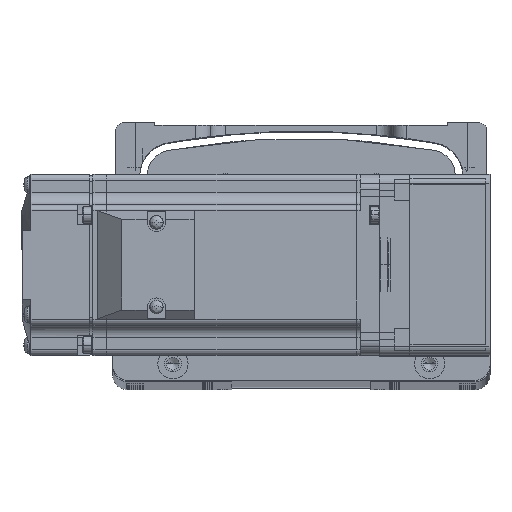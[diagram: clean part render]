
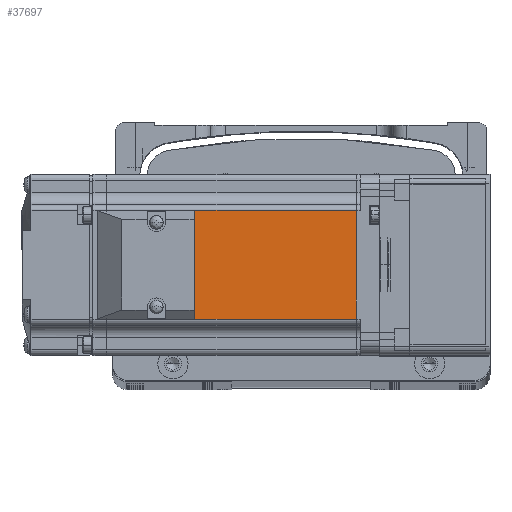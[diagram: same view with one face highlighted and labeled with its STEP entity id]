
A CAD part, top view. The second image highlights one B-rep face of the part: STEP entity #37697.
In plain terms, the highlighted planar face has unit normal (0, 0, 1) as drawn and (0, 1, 0) by its records, which use the part's own axes.
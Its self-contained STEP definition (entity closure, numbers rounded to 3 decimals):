
#317 = CARTESIAN_POINT ( 'NONE',  ( -7.75, 30., -18. ) ) ;
#8624 = EDGE_CURVE ( 'NONE', #54219, #43780, #24937, .T. ) ;
#13593 = FACE_OUTER_BOUND ( 'NONE', #30517, .T. ) ;
#14307 = VECTOR ( 'NONE', #76660, 1000. ) ;
#17532 = AXIS2_PLACEMENT_3D ( 'NONE', #60956, #20686, #67766 ) ;
#17570 = DIRECTION ( 'NONE',  ( 0., 0., 1. ) ) ;
#18228 = DIRECTION ( 'NONE',  ( 0., 0., 1. ) ) ;
#20686 = DIRECTION ( 'NONE',  ( 0., 1., 0. ) ) ;
#22795 = ORIENTED_EDGE ( 'NONE', *, *, #8624, .T. ) ;
#23257 = VECTOR ( 'NONE', #17570, 1000. ) ;
#23316 = VECTOR ( 'NONE', #18228, 1000. ) ;
#24937 = LINE ( 'NONE', #86755, #38640 ) ;
#29615 = CARTESIAN_POINT ( 'NONE',  ( -6.5, 30., 18. ) ) ;
#30517 = EDGE_LOOP ( 'NONE', ( #37884, #22795, #35372, #59157 ) ) ;
#32954 = DIRECTION ( 'NONE',  ( -1., 0., 0. ) ) ;
#35372 = ORIENTED_EDGE ( 'NONE', *, *, #77306, .T. ) ;
#36883 = EDGE_CURVE ( 'NONE', #54219, #65345, #59009, .T. ) ;
#37051 = CARTESIAN_POINT ( 'NONE',  ( -7.75, 30., 0. ) ) ;
#37697 = ADVANCED_FACE ( 'NONE', ( #13593 ), #73977, .T. ) ;
#37884 = ORIENTED_EDGE ( 'NONE', *, *, #36883, .F. ) ;
#38640 = VECTOR ( 'NONE', #32954, 1000. ) ;
#41245 = LINE ( 'NONE', #71828, #23316 ) ;
#43722 = CARTESIAN_POINT ( 'NONE',  ( -7.75, 30., 18. ) ) ;
#43780 = VERTEX_POINT ( 'NONE', #63424 ) ;
#47278 = CARTESIAN_POINT ( 'NONE',  ( -90.45, 30., 18. ) ) ;
#53179 = VERTEX_POINT ( 'NONE', #47278 ) ;
#54219 = VERTEX_POINT ( 'NONE', #317 ) ;
#59009 = LINE ( 'NONE', #37051, #23257 ) ;
#59157 = ORIENTED_EDGE ( 'NONE', *, *, #82947, .T. ) ;
#60956 = CARTESIAN_POINT ( 'NONE',  ( -6.5, 30., 25. ) ) ;
#63424 = CARTESIAN_POINT ( 'NONE',  ( -90.45, 30., -18. ) ) ;
#65345 = VERTEX_POINT ( 'NONE', #43722 ) ;
#67766 = DIRECTION ( 'NONE',  ( 0., 0., 1. ) ) ;
#71828 = CARTESIAN_POINT ( 'NONE',  ( -90.45, 30., 0. ) ) ;
#73977 = PLANE ( 'NONE',  #17532 ) ;
#76660 = DIRECTION ( 'NONE',  ( 1., 0., 0. ) ) ;
#77306 = EDGE_CURVE ( 'NONE', #43780, #53179, #41245, .T. ) ;
#82947 = EDGE_CURVE ( 'NONE', #53179, #65345, #85894, .T. ) ;
#85894 = LINE ( 'NONE', #29615, #14307 ) ;
#86755 = CARTESIAN_POINT ( 'NONE',  ( -6.5, 30., -18. ) ) ;
